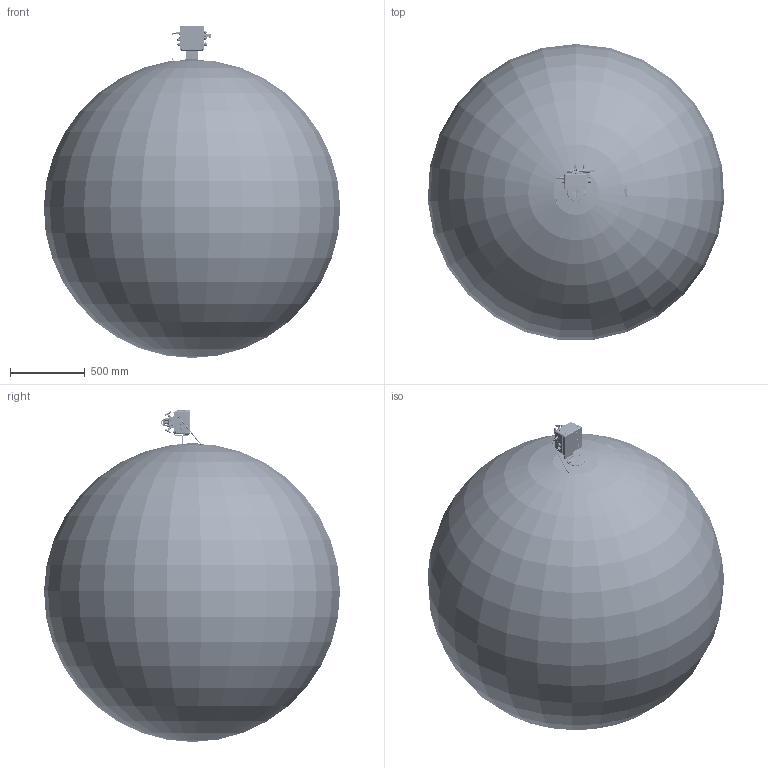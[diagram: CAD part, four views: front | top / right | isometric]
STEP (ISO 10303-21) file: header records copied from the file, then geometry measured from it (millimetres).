
FILE_DESCRIPTION(('STEP AP242'), '1');
FILE_NAME('ÑÃ-ÝÊÐ-Ò-À DN200 ïðàâûé ñ ÏÏÄ', '', ('UNSPECIFIED'), ('UNSPECIFIED'), 'C3D Converter', 'C3D Toolkit', '');
FILE_SCHEMA(('AP242_MANAGED_MODEL_BASED_3D_ENGINEERING_MIM_LF { 1 0 10303 442 1 1 4 }'));
Length unit declared in the file: millimetre
Products named in the file (1): DN200
Bounding box: 1985.41 x 1982.05 x 2223.67 mm (x, y, z)
Volume: 4143722234.9 mm3; surface area: 14324787.6 mm2
Topology: 127 solids, 127 shells, 8231 faces, 21591 edges, 14059 vertices
Faces by surface type: plane 2894, extrusion 2892, cylinder 1402, cone 563, bspline 308, torus 141, sphere 31
Full cylindrical faces by diameter (mm): 1.95 x3, 2 x42, 2.2 x2, 2.459 x6, 2.5 x10, 2.791 x2, 3 x6, 3.2 x11, 3.242 x7, 3.3 x4, 3.45 x3, 3.459 x4, 3.688 x1, 4 x30, 4.134 x1, 4.3 x12, 4.5 x1, 4.917 x15, 5 x23, 5.5 x8, 6 x39, 6.2 x4, 6.3 x6, 6.6 x4, 7 x18, 7.4 x3, 8 x8, 8.1 x1, 8.5 x1, 8.77 x2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
Entity records: 414278 total; most frequent: CARTESIAN_POINT 162396, ORIENTED_EDGE 41264, DIRECTION 28732, EDGE_CURVE 20632, VERTEX_POINT 14036, VECTOR 12472, B_SPLINE_CURVE_WITH_KNOTS 10529, EDGE_LOOP 9955
